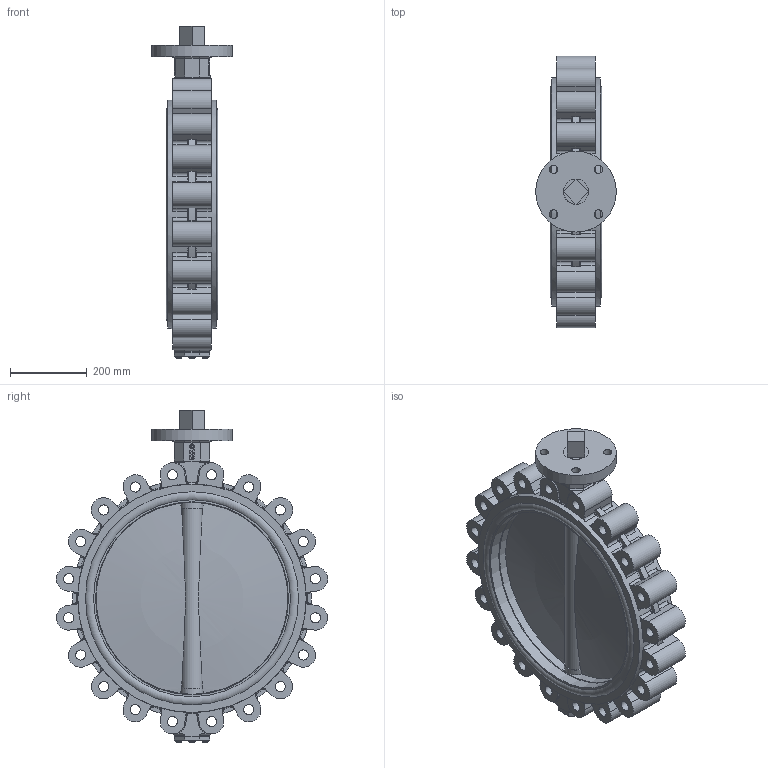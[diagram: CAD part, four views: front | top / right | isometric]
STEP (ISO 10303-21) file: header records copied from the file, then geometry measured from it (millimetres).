
FILE_DESCRIPTION(('STEP AP242'), '1');
FILE_NAME('Ïîâîðîòíûé çàòâîð ïîä ýëåêòðîïðèâîä', '', ('UNSPECIFIED'), ('UNSPECIFIED'), 'C3D Converter', 'C3D Toolkit', '');
FILE_SCHEMA(('AP242_MANAGED_MODEL_BASED_3D_ENGINEERING_MIM_LF { 1 0 10303 442 1 1 4 }'));
Length unit declared in the file: millimetre
Products named in the file (8): П
Assembly tree (11 placements, depth 2):
  (unnamed)
    (unnamed)
    П  x2
    (unnamed)
    (unnamed)
    (unnamed)
    (unnamed)
    (unnamed)  x4
Bounding box: 210 x 705.99 x 864 mm (x, y, z)
Volume: 24960915.7 mm3; surface area: 2505908.4 mm2
Topology: 11 solids, 11 shells, 992 faces, 2533 edges, 1607 vertices
Faces by surface type: plane 374, cylinder 302, extrusion 159, torus 134, cone 19, sphere 4
Full cylindrical faces by diameter (mm): 8 x4, 10 x12, 12.564 x1, 16 x8, 22 x4, 26.211 x20, 46 x5, 50.6 x1, 60.325 x4, 65.054 x5, 210 x1, 500 x1, 502.5 x2, 512.5 x2, 533.5 x4, 554.5 x4, 594.48 x2
Entity records: 36584 total; most frequent: CARTESIAN_POINT 11988, ORIENTED_EDGE 4594, DIRECTION 4329, EDGE_CURVE 2297, AXIS2_PLACEMENT_3D 1559, VERTEX_POINT 1515, VECTOR 1211, EDGE_LOOP 1114
